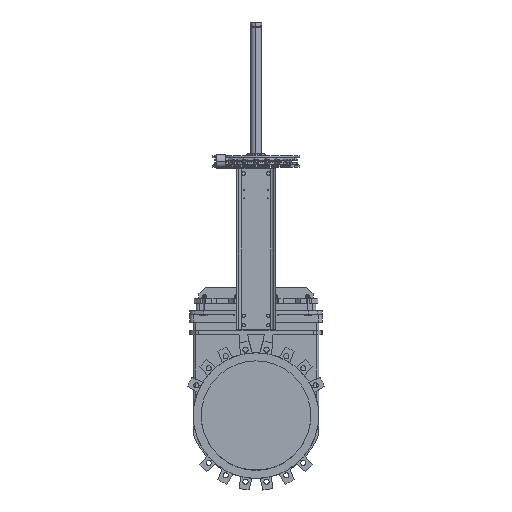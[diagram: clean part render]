
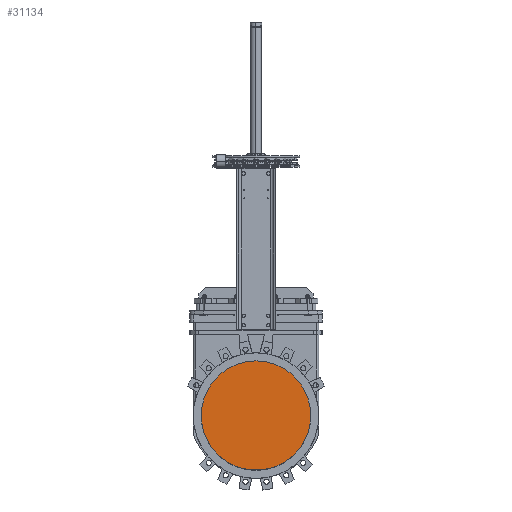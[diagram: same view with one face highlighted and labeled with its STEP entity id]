
A CAD part, top view. The second image highlights one B-rep face of the part: STEP entity #31134.
In plain terms, the highlighted planar face has unit normal (0, 0, 1).
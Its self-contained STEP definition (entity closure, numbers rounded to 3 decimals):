
#2175 = DIRECTION ( 'NONE',  ( 0.707, -0.707, 0. ) ) ;
#2176 = VECTOR ( 'NONE', #2175, 1000. ) ;
#2177 = CARTESIAN_POINT ( 'NONE',  ( -10.757, 19.243, 6. ) ) ;
#2178 = LINE ( 'NONE', #2177, #2176 ) ;
#5006 = CARTESIAN_POINT ( 'NONE',  ( 264.5, -66.343, 6. ) ) ;
#5122 = CARTESIAN_POINT ( 'NONE',  ( 188.002, -179.517, 6. ) ) ;
#5253 = DIRECTION ( 'NONE',  ( 1., 0., 0. ) ) ;
#5254 = DIRECTION ( 'NONE',  ( 0., 0., 1. ) ) ;
#5255 = CARTESIAN_POINT ( 'NONE',  ( 0., 30., 6. ) ) ;
#5256 = AXIS2_PLACEMENT_3D ( 'NONE', #5255, #5254, #5253 ) ;
#5257 = CIRCLE ( 'NONE', #5256, 281.5 ) ;
#8720 = EDGE_CURVE ( 'NONE', #35508, #9444, #2178, .T. ) ;
#9405 = VERTEX_POINT ( 'NONE', #5006 ) ;
#9444 = VERTEX_POINT ( 'NONE', #5122 ) ;
#9474 = EDGE_CURVE ( 'NONE', #9444, #9405, #5257, .T. ) ;
#14669 = VERTEX_POINT ( 'NONE', #44154 ) ;
#14714 = DIRECTION ( 'NONE',  ( 1., 0., 0. ) ) ;
#14716 = DIRECTION ( 'NONE',  ( 0., 0., 1. ) ) ;
#14718 = AXIS2_PLACEMENT_3D ( 'NONE', #14727, #14716, #14714 ) ;
#14719 = CIRCLE ( 'NONE', #14718, 281.5 ) ;
#14727 = CARTESIAN_POINT ( 'NONE',  ( 0., 30., 6. ) ) ;
#14736 = CARTESIAN_POINT ( 'NONE',  ( -264.5, -66.343, 6. ) ) ;
#16145 = CARTESIAN_POINT ( 'NONE',  ( -188.002, -179.517, 6. ) ) ;
#30330 = DIRECTION ( 'NONE',  ( 0.707, 0.707, 0. ) ) ;
#30331 = VECTOR ( 'NONE', #30330, 1000. ) ;
#30334 = CARTESIAN_POINT ( 'NONE',  ( 198.494, -168.494, 6. ) ) ;
#30335 = LINE ( 'NONE', #30334, #30331 ) ;
#30998 = ORIENTED_EDGE ( 'NONE', *, *, #31004, .T. ) ;
#31004 = EDGE_CURVE ( 'NONE', #9405, #45155, #57439, .T. ) ;
#31008 = ORIENTED_EDGE ( 'NONE', *, *, #46607, .T. ) ;
#31013 = ORIENTED_EDGE ( 'NONE', *, *, #31016, .F. ) ;
#31016 = EDGE_CURVE ( 'NONE', #68014, #47665, #57429, .T. ) ;
#31021 = ORIENTED_EDGE ( 'NONE', *, *, #68016, .T. ) ;
#31024 = ORIENTED_EDGE ( 'NONE', *, *, #33550, .F. ) ;
#31029 = ORIENTED_EDGE ( 'NONE', *, *, #33637, .F. ) ;
#31076 = ORIENTED_EDGE ( 'NONE', *, *, #35951, .T. ) ;
#31082 = ORIENTED_EDGE ( 'NONE', *, *, #75660, .T. ) ;
#31085 = ORIENTED_EDGE ( 'NONE', *, *, #8720, .T. ) ;
#31089 = ORIENTED_EDGE ( 'NONE', *, *, #9474, .T. ) ;
#31134 = ADVANCED_FACE ( 'NONE', ( #57530 ), #57528, .T. ) ;
#31139 = EDGE_LOOP ( 'NONE', ( #30998, #31008, #31013, #31021, #31024, #31029, #31076, #31082, #31085, #31089 ) ) ;
#33547 = VERTEX_POINT ( 'NONE', #61209 ) ;
#33550 = EDGE_CURVE ( 'NONE', #33547, #68060, #61208, .T. ) ;
#33637 = EDGE_CURVE ( 'NONE', #14669, #33547, #61333, .T. ) ;
#35508 = VERTEX_POINT ( 'NONE', #66489 ) ;
#35936 = VERTEX_POINT ( 'NONE', #69925 ) ;
#35951 = EDGE_CURVE ( 'NONE', #14669, #35936, #70025, .T. ) ;
#44154 = CARTESIAN_POINT ( 'NONE',  ( -183.622, -183.366, 6. ) ) ;
#45155 = VERTEX_POINT ( 'NONE', #73585 ) ;
#46607 = EDGE_CURVE ( 'NONE', #45155, #47665, #74071, .T. ) ;
#47665 = VERTEX_POINT ( 'NONE', #74404 ) ;
#57426 = DIRECTION ( 'NONE',  ( 0., 1., 0. ) ) ;
#57427 = VECTOR ( 'NONE', #57426, 1000. ) ;
#57428 = CARTESIAN_POINT ( 'NONE',  ( -264.5, -344.538, 6. ) ) ;
#57429 = LINE ( 'NONE', #57428, #57427 ) ;
#57436 = DIRECTION ( 'NONE',  ( 0., 1., 0. ) ) ;
#57437 = VECTOR ( 'NONE', #57436, 1000. ) ;
#57438 = CARTESIAN_POINT ( 'NONE',  ( 264.5, -344.538, 6. ) ) ;
#57439 = LINE ( 'NONE', #57438, #57437 ) ;
#57524 = DIRECTION ( 'NONE',  ( 1., 0., 0. ) ) ;
#57525 = DIRECTION ( 'NONE',  ( 0., 0., 1. ) ) ;
#57526 = CARTESIAN_POINT ( 'NONE',  ( -264.5, -344.538, 6. ) ) ;
#57527 = AXIS2_PLACEMENT_3D ( 'NONE', #57526, #57525, #57524 ) ;
#57528 = PLANE ( 'NONE',  #57527 ) ;
#57530 = FACE_OUTER_BOUND ( 'NONE', #31139, .T. ) ;
#61204 = DIRECTION ( 'NONE',  ( -0.707, -0.707, 0. ) ) ;
#61205 = VECTOR ( 'NONE', #61204, 1000. ) ;
#61206 = CARTESIAN_POINT ( 'NONE',  ( 10.757, 19.243, 6. ) ) ;
#61208 = LINE ( 'NONE', #61206, #61205 ) ;
#61209 = CARTESIAN_POINT ( 'NONE',  ( -187.737, -179.252, 6. ) ) ;
#61330 = DIRECTION ( 'NONE',  ( -0.707, 0.707, 0. ) ) ;
#61331 = VECTOR ( 'NONE', #61330, 1000. ) ;
#61332 = CARTESIAN_POINT ( 'NONE',  ( -198.494, -168.494, 6. ) ) ;
#61333 = LINE ( 'NONE', #61332, #61331 ) ;
#66489 = CARTESIAN_POINT ( 'NONE',  ( 187.737, -179.252, 6. ) ) ;
#68014 = VERTEX_POINT ( 'NONE', #14736 ) ;
#68016 = EDGE_CURVE ( 'NONE', #68014, #68060, #14719, .T. ) ;
#68060 = VERTEX_POINT ( 'NONE', #16145 ) ;
#69925 = CARTESIAN_POINT ( 'NONE',  ( 183.622, -183.366, 6. ) ) ;
#70021 = DIRECTION ( 'NONE',  ( 1., 0., 0. ) ) ;
#70022 = DIRECTION ( 'NONE',  ( 0., 0., 1. ) ) ;
#70023 = CARTESIAN_POINT ( 'NONE',  ( 0., 30., 6. ) ) ;
#70024 = AXIS2_PLACEMENT_3D ( 'NONE', #70023, #70022, #70021 ) ;
#70025 = CIRCLE ( 'NONE', #70024, 281.5 ) ;
#73585 = CARTESIAN_POINT ( 'NONE',  ( 264.5, 106.136, 6. ) ) ;
#74067 = DIRECTION ( 'NONE',  ( 1., 0., 0. ) ) ;
#74068 = DIRECTION ( 'NONE',  ( 0., 0., 1. ) ) ;
#74069 = CARTESIAN_POINT ( 'NONE',  ( 0., 0., 6. ) ) ;
#74070 = AXIS2_PLACEMENT_3D ( 'NONE', #74069, #74068, #74067 ) ;
#74071 = CIRCLE ( 'NONE', #74070, 285. ) ;
#74404 = CARTESIAN_POINT ( 'NONE',  ( -264.5, 106.136, 6. ) ) ;
#75660 = EDGE_CURVE ( 'NONE', #35936, #35508, #30335, .T. ) ;
